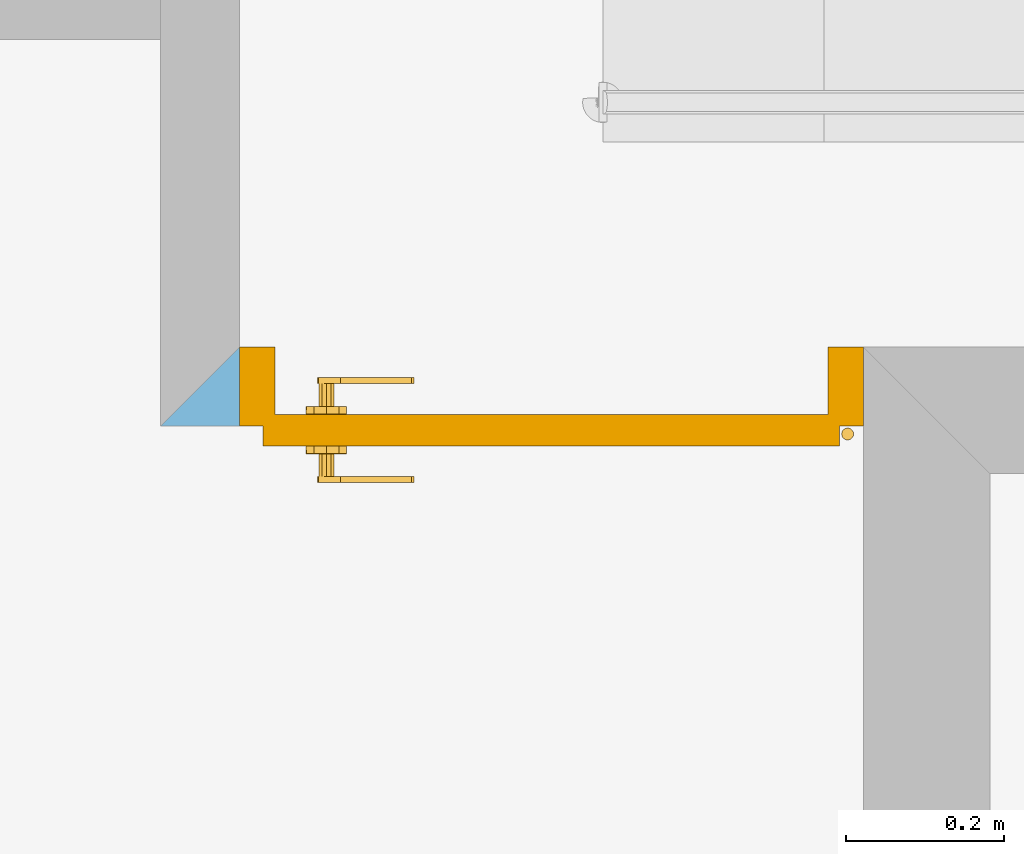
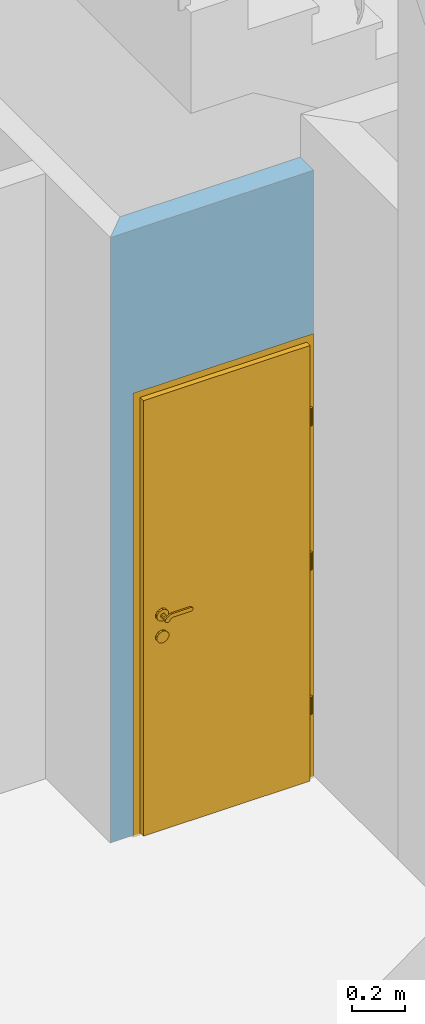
# One storey, part 39 of 45: 1 door, 1 opening, plus 1 element that does not belong to this part.
"""IFC2X3 building model written with IfcOpenShell, lengths in metres."""

from ifc_helpers import new_model, entity, si_unit, converted_unit, money_unit, direction, frame, origin_with_axes, place, context, subcontext, project, spatial, polyline, outline, extrude, faceted_brep, material, layer, layer_set, layer_usage, type_object, element, fill, save


model = new_model("IFC2X3")

# Units and contexts
model_context = context("Model", 3, precision=1e-05, world=origin_with_axes(), true_north=direction((0.0, 1.0)))
body_context = subcontext(model_context, "Body", "Model", "MODEL_VIEW")
ifc_project = project(units=[si_unit("LENGTHUNIT", "METRE"), si_unit("AREAUNIT", "SQUARE_METRE"), si_unit("VOLUMEUNIT", "CUBIC_METRE"), converted_unit("PLANEANGLEUNIT", "DEGREE", entity("IfcPlaneAngleMeasure", 0.0174532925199), si_unit("PLANEANGLEUNIT", "RADIAN"), dimensions=[0, 0, 0, 0, 0, 0, 0]), si_unit("SOLIDANGLEUNIT", "STERADIAN"), money_unit("EUR"), converted_unit("TIMEUNIT", "Year", entity("IfcTimeMeasure", 31556926.0), si_unit("TIMEUNIT", "SECOND"), dimensions=[0, 0, 0, 0, 0, 0, 0]), si_unit("MASSUNIT", "GRAM"), si_unit("THERMODYNAMICTEMPERATUREUNIT", "DEGREE_CELSIUS"), si_unit("LUMINOUSINTENSITYUNIT", "LUMEN")], contexts=[model_context])

# Site, building, storey
site_placement = place(None, origin_with_axes())
site = spatial("IfcSite", under=ifc_project, at=site_placement, Name="Site", CompositionType="ELEMENT")
building_placement = place(site_placement, origin_with_axes())
building = spatial("IfcBuilding", under=site, at=building_placement, Name="Bâtiment", CompositionType="ELEMENT")
storey_placement = place(building_placement, origin_with_axes())
storey = spatial("IfcBuildingStorey", under=building, at=storey_placement, Name="NIVEAU BAS GYMNASE", CompositionType="ELEMENT", Elevation=0.0)

# Wall, opening, door
ifc_material_1 = material(Name="Hachure solide* 3962059836")
ifc_layer = layer(ifc_material_1, 0.1, ventilated="UNKNOWN")
ifc_layer_set = layer_set([ifc_layer], Name="Hachure solide* 3962059836 0.1")
ifc_layer_usage = layer_usage(ifc_layer_set, "AXIS2", "POSITIVE", 0.0)
wall_type = type_object("IfcWallType", Name="Hachure solide* 3962059836 100", PredefinedType="NOTDEFINED")
wall_placement = place(storey_placement, frame((48.518457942, 18.568815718, 0.0), z_axis=(0.0, 0.0, 1.0), x_axis=(-1.0, 0.0, 0.0)))
wall = element("IfcWallStandardCase", 1, at=wall_placement, inside=storey, type_object=wall_type, material=ifc_layer_usage, Name="Mur-004", context=body_context, shape_type="SweptSolid", body=[
    extrude(outline(polyline([(0.0, 0.0), (0.79, 0.0), (0.89, 0.1), (0.0, 0.1), (0.0, 0.0)])), origin_with_axes(), (0.0, 0.0, 1.0), 2.8),
])
opening_placement = place(wall_placement, frame((0.394999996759, 0.0, -0.01), z_axis=(0.0, 0.0, 1.0), x_axis=(1.0, 0.0, 0.0)))
opening = element("IfcOpeningElement", 2, at=opening_placement, cuts=wall, Name="Por-018", context=body_context, shape_type="SweptSolid", body=[
    extrude(outline(polyline([(0.395, 0.0), (-0.395, 0.0), (-0.395, -2.055), (0.395, -2.055), (0.395, 0.0)])), frame((0.0, -0.1, 0.0), z_axis=(0.0, 1.0, 0.0), x_axis=(1.0, 0.0, 0.0)), (0.0, 0.0, 1.0), 0.2),
])
ifc_material_2 = material(Name="Sans Trame")
door_style = type_object("IfcDoorStyle", Name="Porte int 1v", ConstructionType="NOTDEFINED", OperationType="NOTDEFINED", ParameterTakesPrecedence=False, Sizeable=False)
door_placement = place(opening_placement, frame((-0.395000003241, 0.0, 0.0), z_axis=(0.0, 0.0, 1.0), x_axis=(1.0, 0.0, 0.0)))
door = element("IfcDoor", 3, at=door_placement, inside=storey, type_object=door_style, material=ifc_material_2, Name="Por-018", OverallHeight=2.055, OverallWidth=0.79, context=body_context, shape_type="Brep", body=[
    faceted_brep([(6.4820113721e-09, 0.1, 0.0), (6.4820113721e-09, 0.1, 2.055), (0.790000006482, 0.1, 2.055), (0.790000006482, 0.1, 0.0), (0.760000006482, 0.1, 0.0), (0.760000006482, 0.1, 2.025), (0.030000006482, 0.1, 2.025), (0.030000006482, 0.1, 0.0), (6.4820113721e-09, 0.0, 0.0), (6.4820113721e-09, 0.0, 2.055), (0.790000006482, 0.0, 2.055), (0.790000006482, 0.0, 0.0), (0.745000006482, 0.0, 0.0), (0.745000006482, 0.085, 0.0), (0.760000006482, 0.085, 0.0), (0.760000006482, 0.085, 2.025), (0.030000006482, 0.085, 2.025), (0.030000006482, 0.085, 0.0), (0.045000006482, 0.085, 0.0), (0.045000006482, 0.0, 0.0), (0.045000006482, 0.0, 2.01), (0.745000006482, 0.0, 2.01), (0.745000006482, 0.085, 2.01), (0.045000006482, 0.085, 2.01)], [[[0, 1, 2, 3, 4, 5, 6, 7]], [[8, 9, 1, 0]], [[9, 10, 2, 1]], [[10, 11, 3, 2]], [[3, 11, 12, 13, 14, 4]], [[5, 4, 14, 15]], [[6, 5, 15, 16]], [[7, 6, 16, 17]], [[0, 7, 17, 18, 19, 8]], [[19, 20, 21, 12, 11, 10, 9, 8]], [[22, 13, 12, 21]], [[17, 16, 15, 14, 13, 22, 23, 18]], [[18, 23, 20, 19]], [[23, 22, 21, 20]]]),
    faceted_brep([(0.027386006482, 0.108698, 0.31), (0.027048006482, 0.107435, 0.31), (0.026495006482, 0.10625, 0.31), (0.025745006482, 0.105179, 0.31), (0.024821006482, 0.104255, 0.31), (0.023750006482, 0.103505, 0.31), (0.022565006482, 0.102952, 0.31), (0.021302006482, 0.102614, 0.31), (0.020000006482, 0.1025, 0.31), (0.018698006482, 0.102614, 0.31), (0.017435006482, 0.102952, 0.31), (0.016250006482, 0.103505, 0.31), (0.015179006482, 0.104255, 0.31), (0.014255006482, 0.105179, 0.31), (0.013505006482, 0.10625, 0.31), (0.012952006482, 0.107435, 0.31), (0.012614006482, 0.108698, 0.31), (0.012500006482, 0.11, 0.31), (0.012614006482, 0.111302, 0.31), (0.012952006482, 0.112565, 0.31), (0.013505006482, 0.11375, 0.31), (0.014255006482, 0.114821, 0.31), (0.015179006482, 0.115745, 0.31), (0.016250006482, 0.116495, 0.31), (0.017435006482, 0.117048, 0.31), (0.018698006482, 0.117386, 0.31), (0.020000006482, 0.1175, 0.31), (0.021302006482, 0.117386, 0.31), (0.022565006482, 0.117048, 0.31), (0.023750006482, 0.116495, 0.31), (0.024821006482, 0.115745, 0.31), (0.025745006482, 0.114821, 0.31), (0.026495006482, 0.11375, 0.31), (0.027048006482, 0.112565, 0.31), (0.027386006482, 0.111302, 0.31), (0.027500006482, 0.11, 0.31), (0.027386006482, 0.108698, 0.39), (0.027048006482, 0.107435, 0.39), (0.026495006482, 0.10625, 0.39), (0.025745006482, 0.105179, 0.39), (0.024821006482, 0.104255, 0.39), (0.023750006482, 0.103505, 0.39), (0.022565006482, 0.102952, 0.39), (0.021302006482, 0.102614, 0.39), (0.020000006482, 0.1025, 0.39), (0.018698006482, 0.102614, 0.39), (0.017435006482, 0.102952, 0.39), (0.016250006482, 0.103505, 0.39), (0.015179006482, 0.104255, 0.39), (0.014255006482, 0.105179, 0.39), (0.013505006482, 0.10625, 0.39), (0.012952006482, 0.107435, 0.39), (0.012614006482, 0.108698, 0.39), (0.012500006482, 0.11, 0.39), (0.012614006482, 0.111302, 0.39), (0.012952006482, 0.112565, 0.39), (0.013505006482, 0.11375, 0.39), (0.014255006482, 0.114821, 0.39), (0.015179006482, 0.115745, 0.39), (0.016250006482, 0.116495, 0.39), (0.017435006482, 0.117048, 0.39), (0.018698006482, 0.117386, 0.39), (0.020000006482, 0.1175, 0.39), (0.021302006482, 0.117386, 0.39), (0.022565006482, 0.117048, 0.39), (0.023750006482, 0.116495, 0.39), (0.024821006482, 0.115745, 0.39), (0.025745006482, 0.114821, 0.39), (0.026495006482, 0.11375, 0.39), (0.027048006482, 0.112565, 0.39), (0.027386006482, 0.111302, 0.39), (0.027500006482, 0.11, 0.39)], [[[0, 1, 2, 3, 4, 5, 6, 7, 8, 9, 10, 11, 12, 13, 14, 15, 16, 17, 18, 19, 20, 21, 22, 23, 24, 25, 26, 27, 28, 29, 30, 31, 32, 33, 34, 35]], [[1, 0, 36, 37]], [[2, 1, 37, 38]], [[3, 2, 38, 39]], [[4, 3, 39, 40]], [[5, 4, 40, 41]], [[6, 5, 41, 42]], [[7, 6, 42, 43]], [[8, 7, 43, 44]], [[9, 8, 44, 45]], [[10, 9, 45, 46]], [[11, 10, 46, 47]], [[12, 11, 47, 48]], [[13, 12, 48, 49]], [[14, 13, 49, 50]], [[15, 14, 50, 51]], [[16, 15, 51, 52]], [[17, 16, 52, 53]], [[18, 17, 53, 54]], [[19, 18, 54, 55]], [[20, 19, 55, 56]], [[21, 20, 56, 57]], [[22, 21, 57, 58]], [[23, 22, 58, 59]], [[24, 23, 59, 60]], [[25, 24, 60, 61]], [[26, 25, 61, 62]], [[27, 26, 62, 63]], [[28, 27, 63, 64]], [[29, 28, 64, 65]], [[30, 29, 65, 66]], [[31, 30, 66, 67]], [[32, 31, 67, 68]], [[33, 32, 68, 69]], [[34, 33, 69, 70]], [[35, 34, 70, 71]], [[0, 35, 71, 36]], [[36, 71, 70, 69, 68, 67, 66, 65, 64, 63, 62, 61, 60, 59, 58, 57, 56, 55, 54, 53, 52, 51, 50, 49, 48, 47, 46, 45, 44, 43, 42, 41, 40, 39, 38, 37]]]),
    faceted_brep([(0.027386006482, 0.108698, 0.9775), (0.027048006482, 0.107435, 0.9775), (0.026495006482, 0.10625, 0.9775), (0.025745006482, 0.105179, 0.9775), (0.024821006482, 0.104255, 0.9775), (0.023750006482, 0.103505, 0.9775), (0.022565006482, 0.102952, 0.9775), (0.021302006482, 0.102614, 0.9775), (0.020000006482, 0.1025, 0.9775), (0.018698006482, 0.102614, 0.9775), (0.017435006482, 0.102952, 0.9775), (0.016250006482, 0.103505, 0.9775), (0.015179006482, 0.104255, 0.9775), (0.014255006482, 0.105179, 0.9775), (0.013505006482, 0.10625, 0.9775), (0.012952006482, 0.107435, 0.9775), (0.012614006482, 0.108698, 0.9775), (0.012500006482, 0.11, 0.9775), (0.012614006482, 0.111302, 0.9775), (0.012952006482, 0.112565, 0.9775), (0.013505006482, 0.11375, 0.9775), (0.014255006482, 0.114821, 0.9775), (0.015179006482, 0.115745, 0.9775), (0.016250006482, 0.116495, 0.9775), (0.017435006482, 0.117048, 0.9775), (0.018698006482, 0.117386, 0.9775), (0.020000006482, 0.1175, 0.9775), (0.021302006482, 0.117386, 0.9775), (0.022565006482, 0.117048, 0.9775), (0.023750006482, 0.116495, 0.9775), (0.024821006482, 0.115745, 0.9775), (0.025745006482, 0.114821, 0.9775), (0.026495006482, 0.11375, 0.9775), (0.027048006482, 0.112565, 0.9775), (0.027386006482, 0.111302, 0.9775), (0.027500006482, 0.11, 0.9775), (0.027386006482, 0.108698, 1.0575), (0.027048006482, 0.107435, 1.0575), (0.026495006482, 0.10625, 1.0575), (0.025745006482, 0.105179, 1.0575), (0.024821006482, 0.104255, 1.0575), (0.023750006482, 0.103505, 1.0575), (0.022565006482, 0.102952, 1.0575), (0.021302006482, 0.102614, 1.0575), (0.020000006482, 0.1025, 1.0575), (0.018698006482, 0.102614, 1.0575), (0.017435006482, 0.102952, 1.0575), (0.016250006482, 0.103505, 1.0575), (0.015179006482, 0.104255, 1.0575), (0.014255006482, 0.105179, 1.0575), (0.013505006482, 0.10625, 1.0575), (0.012952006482, 0.107435, 1.0575), (0.012614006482, 0.108698, 1.0575), (0.012500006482, 0.11, 1.0575), (0.012614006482, 0.111302, 1.0575), (0.012952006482, 0.112565, 1.0575), (0.013505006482, 0.11375, 1.0575), (0.014255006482, 0.114821, 1.0575), (0.015179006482, 0.115745, 1.0575), (0.016250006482, 0.116495, 1.0575), (0.017435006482, 0.117048, 1.0575), (0.018698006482, 0.117386, 1.0575), (0.020000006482, 0.1175, 1.0575), (0.021302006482, 0.117386, 1.0575), (0.022565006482, 0.117048, 1.0575), (0.023750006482, 0.116495, 1.0575), (0.024821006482, 0.115745, 1.0575), (0.025745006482, 0.114821, 1.0575), (0.026495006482, 0.11375, 1.0575), (0.027048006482, 0.112565, 1.0575), (0.027386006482, 0.111302, 1.0575), (0.027500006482, 0.11, 1.0575)], [[[0, 1, 2, 3, 4, 5, 6, 7, 8, 9, 10, 11, 12, 13, 14, 15, 16, 17, 18, 19, 20, 21, 22, 23, 24, 25, 26, 27, 28, 29, 30, 31, 32, 33, 34, 35]], [[1, 0, 36, 37]], [[2, 1, 37, 38]], [[3, 2, 38, 39]], [[4, 3, 39, 40]], [[5, 4, 40, 41]], [[6, 5, 41, 42]], [[7, 6, 42, 43]], [[8, 7, 43, 44]], [[9, 8, 44, 45]], [[10, 9, 45, 46]], [[11, 10, 46, 47]], [[12, 11, 47, 48]], [[13, 12, 48, 49]], [[14, 13, 49, 50]], [[15, 14, 50, 51]], [[16, 15, 51, 52]], [[17, 16, 52, 53]], [[18, 17, 53, 54]], [[19, 18, 54, 55]], [[20, 19, 55, 56]], [[21, 20, 56, 57]], [[22, 21, 57, 58]], [[23, 22, 58, 59]], [[24, 23, 59, 60]], [[25, 24, 60, 61]], [[26, 25, 61, 62]], [[27, 26, 62, 63]], [[28, 27, 63, 64]], [[29, 28, 64, 65]], [[30, 29, 65, 66]], [[31, 30, 66, 67]], [[32, 31, 67, 68]], [[33, 32, 68, 69]], [[34, 33, 69, 70]], [[35, 34, 70, 71]], [[0, 35, 71, 36]], [[36, 71, 70, 69, 68, 67, 66, 65, 64, 63, 62, 61, 60, 59, 58, 57, 56, 55, 54, 53, 52, 51, 50, 49, 48, 47, 46, 45, 44, 43, 42, 41, 40, 39, 38, 37]]]),
    faceted_brep([(0.027386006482, 0.108698, 1.645), (0.027048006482, 0.107435, 1.645), (0.026495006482, 0.10625, 1.645), (0.025745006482, 0.105179, 1.645), (0.024821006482, 0.104255, 1.645), (0.023750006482, 0.103505, 1.645), (0.022565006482, 0.102952, 1.645), (0.021302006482, 0.102614, 1.645), (0.020000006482, 0.1025, 1.645), (0.018698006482, 0.102614, 1.645), (0.017435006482, 0.102952, 1.645), (0.016250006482, 0.103505, 1.645), (0.015179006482, 0.104255, 1.645), (0.014255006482, 0.105179, 1.645), (0.013505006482, 0.10625, 1.645), (0.012952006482, 0.107435, 1.645), (0.012614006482, 0.108698, 1.645), (0.012500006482, 0.11, 1.645), (0.012614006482, 0.111302, 1.645), (0.012952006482, 0.112565, 1.645), (0.013505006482, 0.11375, 1.645), (0.014255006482, 0.114821, 1.645), (0.015179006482, 0.115745, 1.645), (0.016250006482, 0.116495, 1.645), (0.017435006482, 0.117048, 1.645), (0.018698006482, 0.117386, 1.645), (0.020000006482, 0.1175, 1.645), (0.021302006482, 0.117386, 1.645), (0.022565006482, 0.117048, 1.645), (0.023750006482, 0.116495, 1.645), (0.024821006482, 0.115745, 1.645), (0.025745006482, 0.114821, 1.645), (0.026495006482, 0.11375, 1.645), (0.027048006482, 0.112565, 1.645), (0.027386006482, 0.111302, 1.645), (0.027500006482, 0.11, 1.645), (0.027386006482, 0.108698, 1.725), (0.027048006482, 0.107435, 1.725), (0.026495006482, 0.10625, 1.725), (0.025745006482, 0.105179, 1.725), (0.024821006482, 0.104255, 1.725), (0.023750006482, 0.103505, 1.725), (0.022565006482, 0.102952, 1.725), (0.021302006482, 0.102614, 1.725), (0.020000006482, 0.1025, 1.725), (0.018698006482, 0.102614, 1.725), (0.017435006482, 0.102952, 1.725), (0.016250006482, 0.103505, 1.725), (0.015179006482, 0.104255, 1.725), (0.014255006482, 0.105179, 1.725), (0.013505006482, 0.10625, 1.725), (0.012952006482, 0.107435, 1.725), (0.012614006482, 0.108698, 1.725), (0.012500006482, 0.11, 1.725), (0.012614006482, 0.111302, 1.725), (0.012952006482, 0.112565, 1.725), (0.013505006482, 0.11375, 1.725), (0.014255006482, 0.114821, 1.725), (0.015179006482, 0.115745, 1.725), (0.016250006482, 0.116495, 1.725), (0.017435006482, 0.117048, 1.725), (0.018698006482, 0.117386, 1.725), (0.020000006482, 0.1175, 1.725), (0.021302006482, 0.117386, 1.725), (0.022565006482, 0.117048, 1.725), (0.023750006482, 0.116495, 1.725), (0.024821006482, 0.115745, 1.725), (0.025745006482, 0.114821, 1.725), (0.026495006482, 0.11375, 1.725), (0.027048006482, 0.112565, 1.725), (0.027386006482, 0.111302, 1.725), (0.027500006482, 0.11, 1.725)], [[[0, 1, 2, 3, 4, 5, 6, 7, 8, 9, 10, 11, 12, 13, 14, 15, 16, 17, 18, 19, 20, 21, 22, 23, 24, 25, 26, 27, 28, 29, 30, 31, 32, 33, 34, 35]], [[1, 0, 36, 37]], [[2, 1, 37, 38]], [[3, 2, 38, 39]], [[4, 3, 39, 40]], [[5, 4, 40, 41]], [[6, 5, 41, 42]], [[7, 6, 42, 43]], [[8, 7, 43, 44]], [[9, 8, 44, 45]], [[10, 9, 45, 46]], [[11, 10, 46, 47]], [[12, 11, 47, 48]], [[13, 12, 48, 49]], [[14, 13, 49, 50]], [[15, 14, 50, 51]], [[16, 15, 51, 52]], [[17, 16, 52, 53]], [[18, 17, 53, 54]], [[19, 18, 54, 55]], [[20, 19, 55, 56]], [[21, 20, 56, 57]], [[22, 21, 57, 58]], [[23, 22, 58, 59]], [[24, 23, 59, 60]], [[25, 24, 60, 61]], [[26, 25, 61, 62]], [[27, 26, 62, 63]], [[28, 27, 63, 64]], [[29, 28, 64, 65]], [[30, 29, 65, 66]], [[31, 30, 66, 67]], [[32, 31, 67, 68]], [[33, 32, 68, 69]], [[34, 33, 69, 70]], [[35, 34, 70, 71]], [[0, 35, 71, 36]], [[36, 71, 70, 69, 68, 67, 66, 65, 64, 63, 62, 61, 60, 59, 58, 57, 56, 55, 54, 53, 52, 51, 50, 49, 48, 47, 46, 45, 44, 43, 42, 41, 40, 39, 38, 37]]]),
    faceted_brep([(0.030000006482, 0.125, 0.01), (0.760000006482, 0.125, 0.01), (0.760000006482, 0.085, 0.01), (0.030000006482, 0.085, 0.01), (0.030000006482, 0.125, 2.025), (0.760000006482, 0.125, 2.025), (0.760000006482, 0.085, 2.025), (0.030000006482, 0.085, 2.025)], [[[0, 1, 2, 3]], [[0, 4, 5, 1]], [[1, 5, 6, 2]], [[3, 2, 6, 7]], [[4, 0, 3, 7]], [[5, 4, 7, 6]]]),
    faceted_brep([(0.685878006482, 0.046, 1.01809), (0.685878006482, 0.0461, 1.01809), (0.680000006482, 0.0461, 1.02), (0.680000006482, 0.046, 1.02), (0.689511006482, 0.046, 1.01309), (0.689511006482, 0.0461, 1.01309), (0.685878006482, 0.0749, 1.01809), (0.680000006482, 0.0749, 1.02), (0.674122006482, 0.0461, 1.01809), (0.674122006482, 0.046, 1.01809), (0.670489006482, 0.046, 1.01309), (0.670489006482, 0.046, 1.00691), (0.674122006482, 0.046, 1.00191), (0.680000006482, 0.046, 1.0), (0.685878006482, 0.046, 1.00191), (0.689511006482, 0.046, 1.00691), (0.689511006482, 0.0461, 1.00691), (0.689511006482, 0.0749, 1.01309), (0.685878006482, 0.075, 1.01809), (0.680000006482, 0.075, 1.02), (0.674122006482, 0.0749, 1.01809), (0.670489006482, 0.0461, 1.01309), (0.670489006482, 0.0461, 1.00691), (0.674122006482, 0.0461, 1.00191), (0.680000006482, 0.0461, 1.0), (0.685878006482, 0.0461, 1.00191), (0.689511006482, 0.0749, 1.00691), (0.689511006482, 0.075, 1.01309), (0.689511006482, 0.075, 1.00691), (0.685878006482, 0.075, 1.00191), (0.680000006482, 0.075, 1.0), (0.674122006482, 0.075, 1.00191), (0.670489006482, 0.075, 1.00691), (0.670489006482, 0.075, 1.01309), (0.674122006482, 0.075, 1.01809), (0.670489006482, 0.0749, 1.01309), (0.670489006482, 0.0749, 1.00691), (0.674122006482, 0.0749, 1.00191), (0.680000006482, 0.0749, 1.0), (0.685878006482, 0.0749, 1.00191)], [[[0, 1, 2, 3]], [[4, 5, 1, 0]], [[1, 6, 7, 2]], [[3, 2, 8, 9]], [[3, 9, 10, 11, 12, 13, 14, 15, 4, 0]], [[15, 16, 5, 4]], [[5, 17, 6, 1]], [[6, 18, 19, 7]], [[2, 7, 20, 8]], [[9, 8, 21, 10]], [[10, 21, 22, 11]], [[11, 22, 23, 12]], [[12, 23, 24, 13]], [[13, 24, 25, 14]], [[14, 25, 16, 15]], [[16, 26, 17, 5]], [[17, 27, 18, 6]], [[19, 18, 27, 28, 29, 30, 31, 32, 33, 34]], [[7, 19, 34, 20]], [[8, 20, 35, 21]], [[21, 35, 36, 22]], [[22, 36, 37, 23]], [[23, 37, 38, 24]], [[24, 38, 39, 25]], [[25, 39, 26, 16]], [[26, 28, 27, 17]], [[39, 29, 28, 26]], [[38, 30, 29, 39]], [[37, 31, 30, 38]], [[36, 32, 31, 37]], [[35, 33, 32, 36]], [[20, 34, 33, 35]]]),
    faceted_brep([(0.695694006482, 0.075, 1.031601), (0.695753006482, 0.0751, 1.031682), (0.680000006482, 0.0751, 1.0368), (0.680000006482, 0.075, 1.0367), (0.705393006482, 0.075, 1.018251), (0.705488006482, 0.0751, 1.018282), (0.695811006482, 0.0849, 1.031763), (0.680000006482, 0.0849, 1.0369), (0.664247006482, 0.0751, 1.031682), (0.664306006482, 0.075, 1.031601), (0.654607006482, 0.075, 1.018251), (0.654607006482, 0.075, 1.001749), (0.664306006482, 0.075, 0.988399), (0.680000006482, 0.075, 0.9833), (0.695694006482, 0.075, 0.988399), (0.705393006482, 0.075, 1.001749), (0.705488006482, 0.0751, 1.001718), (0.705583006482, 0.0849, 1.018313), (0.695870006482, 0.085, 1.031843), (0.680000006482, 0.085, 1.037), (0.664189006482, 0.0849, 1.031763), (0.654512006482, 0.0751, 1.018282), (0.654512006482, 0.0751, 1.001718), (0.664247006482, 0.0751, 0.988318), (0.680000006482, 0.0751, 0.9832), (0.695753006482, 0.0751, 0.988318), (0.705583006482, 0.0849, 1.001687), (0.705679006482, 0.085, 1.018343), (0.705679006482, 0.085, 1.001657), (0.695870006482, 0.085, 0.988157), (0.680000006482, 0.085, 0.983), (0.664130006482, 0.085, 0.988157), (0.654321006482, 0.085, 1.001657), (0.654321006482, 0.085, 1.018343), (0.664130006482, 0.085, 1.031843), (0.654417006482, 0.0849, 1.018313), (0.654417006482, 0.0849, 1.001687), (0.664189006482, 0.0849, 0.988237), (0.680000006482, 0.0849, 0.9831), (0.695811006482, 0.0849, 0.988237)], [[[0, 1, 2, 3]], [[4, 5, 1, 0]], [[1, 6, 7, 2]], [[3, 2, 8, 9]], [[3, 9, 10, 11, 12, 13, 14, 15, 4, 0]], [[15, 16, 5, 4]], [[5, 17, 6, 1]], [[6, 18, 19, 7]], [[2, 7, 20, 8]], [[9, 8, 21, 10]], [[10, 21, 22, 11]], [[11, 22, 23, 12]], [[12, 23, 24, 13]], [[13, 24, 25, 14]], [[14, 25, 16, 15]], [[16, 26, 17, 5]], [[17, 27, 18, 6]], [[19, 18, 27, 28, 29, 30, 31, 32, 33, 34]], [[7, 19, 34, 20]], [[8, 20, 35, 21]], [[21, 35, 36, 22]], [[22, 36, 37, 23]], [[23, 37, 38, 24]], [[24, 38, 39, 25]], [[25, 39, 26, 16]], [[26, 28, 27, 17]], [[39, 29, 28, 26]], [[38, 30, 29, 39]], [[37, 31, 30, 38]], [[36, 32, 31, 37]], [[35, 33, 32, 36]], [[20, 34, 33, 35]]]),
    faceted_brep([(0.695870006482, 0.075, 0.931843), (0.695870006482, 0.0751, 0.931843), (0.680000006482, 0.0751, 0.937), (0.680000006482, 0.075, 0.937), (0.705679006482, 0.075, 0.918343), (0.705679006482, 0.0751, 0.918343), (0.695870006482, 0.0849, 0.931843), (0.680000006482, 0.0849, 0.937), (0.664130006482, 0.0751, 0.931843), (0.664130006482, 0.075, 0.931843), (0.654321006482, 0.075, 0.918343), (0.654321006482, 0.075, 0.901657), (0.664130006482, 0.075, 0.888157), (0.680000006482, 0.075, 0.883), (0.695870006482, 0.075, 0.888157), (0.705679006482, 0.075, 0.901657), (0.705679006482, 0.0751, 0.901657), (0.705679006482, 0.0849, 0.918343), (0.695870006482, 0.085, 0.931843), (0.680000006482, 0.085, 0.937), (0.664130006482, 0.0849, 0.931843), (0.654321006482, 0.0751, 0.918343), (0.654321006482, 0.0751, 0.901657), (0.664130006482, 0.0751, 0.888157), (0.680000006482, 0.0751, 0.883), (0.695870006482, 0.0751, 0.888157), (0.705679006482, 0.0849, 0.901657), (0.705679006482, 0.085, 0.918343), (0.705679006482, 0.085, 0.901657), (0.695870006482, 0.085, 0.888157), (0.680000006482, 0.085, 0.883), (0.664130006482, 0.085, 0.888157), (0.654321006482, 0.085, 0.901657), (0.654321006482, 0.085, 0.918343), (0.664130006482, 0.085, 0.931843), (0.654321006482, 0.0849, 0.918343), (0.654321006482, 0.0849, 0.901657), (0.664130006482, 0.0849, 0.888157), (0.680000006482, 0.0849, 0.883), (0.695870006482, 0.0849, 0.888157)], [[[0, 1, 2, 3]], [[4, 5, 1, 0]], [[1, 6, 7, 2]], [[3, 2, 8, 9]], [[3, 9, 10, 11, 12, 13, 14, 15, 4, 0]], [[15, 16, 5, 4]], [[5, 17, 6, 1]], [[6, 18, 19, 7]], [[2, 7, 20, 8]], [[9, 8, 21, 10]], [[10, 21, 22, 11]], [[11, 22, 23, 12]], [[12, 23, 24, 13]], [[13, 24, 25, 14]], [[14, 25, 16, 15]], [[16, 26, 17, 5]], [[17, 27, 18, 6]], [[19, 18, 27, 28, 29, 30, 31, 32, 33, 34]], [[7, 19, 34, 20]], [[8, 20, 35, 21]], [[21, 35, 36, 22]], [[22, 36, 37, 23]], [[23, 37, 38, 24]], [[24, 38, 39, 25]], [[25, 39, 26, 16]], [[26, 28, 27, 17]], [[39, 29, 28, 26]], [[38, 30, 29, 39]], [[37, 31, 30, 38]], [[36, 32, 31, 37]], [[35, 33, 32, 36]], [[20, 34, 33, 35]]]),
    faceted_brep([(0.577500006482, 0.046, 1.01575), (0.577500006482, 0.0385, 1.01575), (0.572317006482, 0.0385, 1.017394), (0.572317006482, 0.046, 1.017394), (0.657555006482, 0.046, 1.01575), (0.657555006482, 0.0385, 1.01575), (0.668774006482, 0.0385, 1.009264), (0.671075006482, 0.0385, 1.003152), (0.676384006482, 0.0385, 0.999347), (0.682912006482, 0.0385, 0.999133), (0.688458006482, 0.0385, 1.002582), (0.691154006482, 0.0385, 1.008532), (0.690090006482, 0.0385, 1.014976), (0.685625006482, 0.0385, 1.019743), (0.662245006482, 0.0385, 1.03325), (0.577500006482, 0.0385, 1.03325), (0.572317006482, 0.0385, 1.031606), (0.569106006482, 0.0385, 1.027219), (0.569106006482, 0.0385, 1.021781), (0.569106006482, 0.046, 1.021781), (0.569106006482, 0.046, 1.027219), (0.572317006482, 0.046, 1.031606), (0.577500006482, 0.046, 1.03325), (0.662245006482, 0.046, 1.03325), (0.685625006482, 0.046, 1.019743), (0.690090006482, 0.046, 1.014976), (0.691154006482, 0.046, 1.008532), (0.688458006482, 0.046, 1.002582), (0.682912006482, 0.046, 0.999133), (0.676384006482, 0.046, 0.999347), (0.671075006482, 0.046, 1.003152), (0.668774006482, 0.046, 1.009264)], [[[0, 1, 2, 3]], [[4, 5, 1, 0]], [[1, 5, 6, 7, 8, 9, 10, 11, 12, 13, 14, 15, 16, 17, 18, 2]], [[3, 2, 18, 19]], [[0, 3, 19, 20, 21, 22, 23, 24, 25, 26, 27, 28, 29, 30, 31, 4]], [[31, 6, 5, 4]], [[30, 7, 6, 31]], [[29, 8, 7, 30]], [[28, 9, 8, 29]], [[27, 10, 9, 28]], [[26, 11, 10, 27]], [[25, 12, 11, 26]], [[24, 13, 12, 25]], [[23, 14, 13, 24]], [[22, 15, 14, 23]], [[21, 16, 15, 22]], [[20, 17, 16, 21]], [[19, 18, 17, 20]]]),
    faceted_brep([(0.685878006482, 0.164, 1.01809), (0.680000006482, 0.164, 1.02), (0.680000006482, 0.1639, 1.02), (0.685878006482, 0.1639, 1.01809), (0.689511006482, 0.164, 1.01309), (0.689511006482, 0.164, 1.00691), (0.685878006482, 0.164, 1.00191), (0.680000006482, 0.164, 1.0), (0.674122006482, 0.164, 1.00191), (0.670489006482, 0.164, 1.00691), (0.670489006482, 0.164, 1.01309), (0.674122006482, 0.164, 1.01809), (0.674122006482, 0.1639, 1.01809), (0.680000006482, 0.1351, 1.02), (0.685878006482, 0.1351, 1.01809), (0.689511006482, 0.1639, 1.01309), (0.689511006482, 0.1639, 1.00691), (0.685878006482, 0.1639, 1.00191), (0.680000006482, 0.1639, 1.0), (0.674122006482, 0.1639, 1.00191), (0.670489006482, 0.1639, 1.00691), (0.670489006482, 0.1639, 1.01309), (0.674122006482, 0.1351, 1.01809), (0.680000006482, 0.135, 1.02), (0.685878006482, 0.135, 1.01809), (0.689511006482, 0.1351, 1.01309), (0.689511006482, 0.1351, 1.00691), (0.685878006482, 0.1351, 1.00191), (0.680000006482, 0.1351, 1.0), (0.674122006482, 0.1351, 1.00191), (0.670489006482, 0.1351, 1.00691), (0.670489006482, 0.1351, 1.01309), (0.674122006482, 0.135, 1.01809), (0.670489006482, 0.135, 1.01309), (0.670489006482, 0.135, 1.00691), (0.674122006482, 0.135, 1.00191), (0.680000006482, 0.135, 1.0), (0.685878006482, 0.135, 1.00191), (0.689511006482, 0.135, 1.00691), (0.689511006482, 0.135, 1.01309)], [[[0, 1, 2, 3]], [[1, 0, 4, 5, 6, 7, 8, 9, 10, 11]], [[1, 11, 12, 2]], [[3, 2, 13, 14]], [[4, 0, 3, 15]], [[5, 4, 15, 16]], [[6, 5, 16, 17]], [[7, 6, 17, 18]], [[8, 7, 18, 19]], [[9, 8, 19, 20]], [[10, 9, 20, 21]], [[11, 10, 21, 12]], [[2, 12, 22, 13]], [[14, 13, 23, 24]], [[15, 3, 14, 25]], [[16, 15, 25, 26]], [[17, 16, 26, 27]], [[18, 17, 27, 28]], [[19, 18, 28, 29]], [[20, 19, 29, 30]], [[21, 20, 30, 31]], [[12, 21, 31, 22]], [[13, 22, 32, 23]], [[23, 32, 33, 34, 35, 36, 37, 38, 39, 24]], [[25, 14, 24, 39]], [[26, 25, 39, 38]], [[27, 26, 38, 37]], [[28, 27, 37, 36]], [[29, 28, 36, 35]], [[30, 29, 35, 34]], [[31, 30, 34, 33]], [[22, 31, 33, 32]]]),
    faceted_brep([(0.695694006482, 0.135, 1.031601), (0.680000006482, 0.135, 1.0367), (0.680000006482, 0.1349, 1.0368), (0.695753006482, 0.1349, 1.031682), (0.705393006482, 0.135, 1.018251), (0.705393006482, 0.135, 1.001749), (0.695694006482, 0.135, 0.988399), (0.680000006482, 0.135, 0.9833), (0.664306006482, 0.135, 0.988399), (0.654607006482, 0.135, 1.001749), (0.654607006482, 0.135, 1.018251), (0.664306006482, 0.135, 1.031601), (0.664247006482, 0.1349, 1.031682), (0.680000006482, 0.1251, 1.0369), (0.695811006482, 0.1251, 1.031763), (0.705488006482, 0.1349, 1.018282), (0.705488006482, 0.1349, 1.001718), (0.695753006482, 0.1349, 0.988318), (0.680000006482, 0.1349, 0.9832), (0.664247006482, 0.1349, 0.988318), (0.654512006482, 0.1349, 1.001718), (0.654512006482, 0.1349, 1.018282), (0.664189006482, 0.1251, 1.031763), (0.680000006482, 0.125, 1.037), (0.695870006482, 0.125, 1.031843), (0.705583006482, 0.1251, 1.018313), (0.705583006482, 0.1251, 1.001687), (0.695811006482, 0.1251, 0.988237), (0.680000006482, 0.1251, 0.9831), (0.664189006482, 0.1251, 0.988237), (0.654417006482, 0.1251, 1.001687), (0.654417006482, 0.1251, 1.018313), (0.664130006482, 0.125, 1.031843), (0.654321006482, 0.125, 1.018343), (0.654321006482, 0.125, 1.001657), (0.664130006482, 0.125, 0.988157), (0.680000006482, 0.125, 0.983), (0.695870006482, 0.125, 0.988157), (0.705679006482, 0.125, 1.001657), (0.705679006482, 0.125, 1.018343)], [[[0, 1, 2, 3]], [[1, 0, 4, 5, 6, 7, 8, 9, 10, 11]], [[1, 11, 12, 2]], [[3, 2, 13, 14]], [[4, 0, 3, 15]], [[5, 4, 15, 16]], [[6, 5, 16, 17]], [[7, 6, 17, 18]], [[8, 7, 18, 19]], [[9, 8, 19, 20]], [[10, 9, 20, 21]], [[11, 10, 21, 12]], [[2, 12, 22, 13]], [[14, 13, 23, 24]], [[15, 3, 14, 25]], [[16, 15, 25, 26]], [[17, 16, 26, 27]], [[18, 17, 27, 28]], [[19, 18, 28, 29]], [[20, 19, 29, 30]], [[21, 20, 30, 31]], [[12, 21, 31, 22]], [[13, 22, 32, 23]], [[23, 32, 33, 34, 35, 36, 37, 38, 39, 24]], [[25, 14, 24, 39]], [[26, 25, 39, 38]], [[27, 26, 38, 37]], [[28, 27, 37, 36]], [[29, 28, 36, 35]], [[30, 29, 35, 34]], [[31, 30, 34, 33]], [[22, 31, 33, 32]]]),
    faceted_brep([(0.695870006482, 0.135, 0.931843), (0.680000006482, 0.135, 0.937), (0.680000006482, 0.1349, 0.937), (0.695870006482, 0.1349, 0.931843), (0.705679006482, 0.135, 0.918343), (0.705679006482, 0.135, 0.901657), (0.695870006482, 0.135, 0.888157), (0.680000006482, 0.135, 0.883), (0.664130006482, 0.135, 0.888157), (0.654321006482, 0.135, 0.901657), (0.654321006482, 0.135, 0.918343), (0.664130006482, 0.135, 0.931843), (0.664130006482, 0.1349, 0.931843), (0.680000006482, 0.1251, 0.937), (0.695870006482, 0.1251, 0.931843), (0.705679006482, 0.1349, 0.918343), (0.705679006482, 0.1349, 0.901657), (0.695870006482, 0.1349, 0.888157), (0.680000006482, 0.1349, 0.883), (0.664130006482, 0.1349, 0.888157), (0.654321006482, 0.1349, 0.901657), (0.654321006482, 0.1349, 0.918343), (0.664130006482, 0.1251, 0.931843), (0.680000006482, 0.125, 0.937), (0.695870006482, 0.125, 0.931843), (0.705679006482, 0.1251, 0.918343), (0.705679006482, 0.1251, 0.901657), (0.695870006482, 0.1251, 0.888157), (0.680000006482, 0.1251, 0.883), (0.664130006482, 0.1251, 0.888157), (0.654321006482, 0.1251, 0.901657), (0.654321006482, 0.1251, 0.918343), (0.664130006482, 0.125, 0.931843), (0.654321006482, 0.125, 0.918343), (0.654321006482, 0.125, 0.901657), (0.664130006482, 0.125, 0.888157), (0.680000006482, 0.125, 0.883), (0.695870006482, 0.125, 0.888157), (0.705679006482, 0.125, 0.901657), (0.705679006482, 0.125, 0.918343)], [[[0, 1, 2, 3]], [[1, 0, 4, 5, 6, 7, 8, 9, 10, 11]], [[1, 11, 12, 2]], [[3, 2, 13, 14]], [[4, 0, 3, 15]], [[5, 4, 15, 16]], [[6, 5, 16, 17]], [[7, 6, 17, 18]], [[8, 7, 18, 19]], [[9, 8, 19, 20]], [[10, 9, 20, 21]], [[11, 10, 21, 12]], [[2, 12, 22, 13]], [[14, 13, 23, 24]], [[15, 3, 14, 25]], [[16, 15, 25, 26]], [[17, 16, 26, 27]], [[18, 17, 27, 28]], [[19, 18, 28, 29]], [[20, 19, 29, 30]], [[21, 20, 30, 31]], [[12, 21, 31, 22]], [[13, 22, 32, 23]], [[23, 32, 33, 34, 35, 36, 37, 38, 39, 24]], [[25, 14, 24, 39]], [[26, 25, 39, 38]], [[27, 26, 38, 37]], [[28, 27, 37, 36]], [[29, 28, 36, 35]], [[30, 29, 35, 34]], [[31, 30, 34, 33]], [[22, 31, 33, 32]]]),
    faceted_brep([(0.577500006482, 0.164, 1.01575), (0.572317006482, 0.164, 1.017394), (0.572317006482, 0.1715, 1.017394), (0.577500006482, 0.1715, 1.01575), (0.657555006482, 0.164, 1.01575), (0.668774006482, 0.164, 1.009264), (0.671075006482, 0.164, 1.003152), (0.676384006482, 0.164, 0.999347), (0.682912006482, 0.164, 0.999133), (0.688458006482, 0.164, 1.002582), (0.691154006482, 0.164, 1.008532), (0.690090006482, 0.164, 1.014976), (0.685625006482, 0.164, 1.019743), (0.662245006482, 0.164, 1.03325), (0.577500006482, 0.164, 1.03325), (0.572317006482, 0.164, 1.031606), (0.569106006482, 0.164, 1.027219), (0.569106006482, 0.164, 1.021781), (0.569106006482, 0.1715, 1.021781), (0.569106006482, 0.1715, 1.027219), (0.572317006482, 0.1715, 1.031606), (0.577500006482, 0.1715, 1.03325), (0.662245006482, 0.1715, 1.03325), (0.685625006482, 0.1715, 1.019743), (0.690090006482, 0.1715, 1.014976), (0.691154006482, 0.1715, 1.008532), (0.688458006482, 0.1715, 1.002582), (0.682912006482, 0.1715, 0.999133), (0.676384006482, 0.1715, 0.999347), (0.671075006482, 0.1715, 1.003152), (0.668774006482, 0.1715, 1.009264), (0.657555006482, 0.1715, 1.01575)], [[[0, 1, 2, 3]], [[0, 4, 5, 6, 7, 8, 9, 10, 11, 12, 13, 14, 15, 16, 17, 1]], [[1, 17, 18, 2]], [[3, 2, 18, 19, 20, 21, 22, 23, 24, 25, 26, 27, 28, 29, 30, 31]], [[4, 0, 3, 31]], [[5, 4, 31, 30]], [[6, 5, 30, 29]], [[7, 6, 29, 28]], [[8, 7, 28, 27]], [[9, 8, 27, 26]], [[10, 9, 26, 25]], [[11, 10, 25, 24]], [[12, 11, 24, 23]], [[13, 12, 23, 22]], [[14, 13, 22, 21]], [[15, 14, 21, 20]], [[16, 15, 20, 19]], [[17, 16, 19, 18]]]),
])
fill(opening, door)

save(model, "model.ifc")
